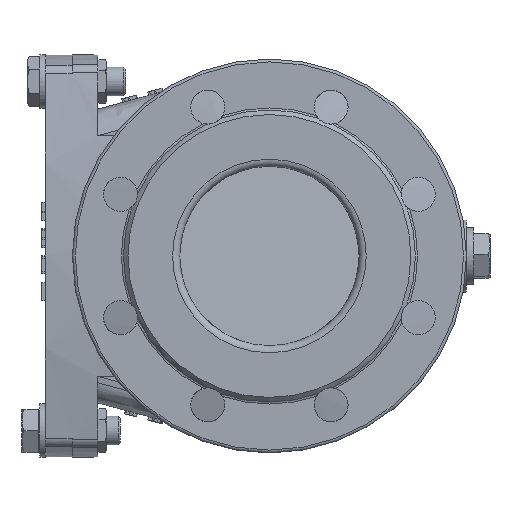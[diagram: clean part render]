
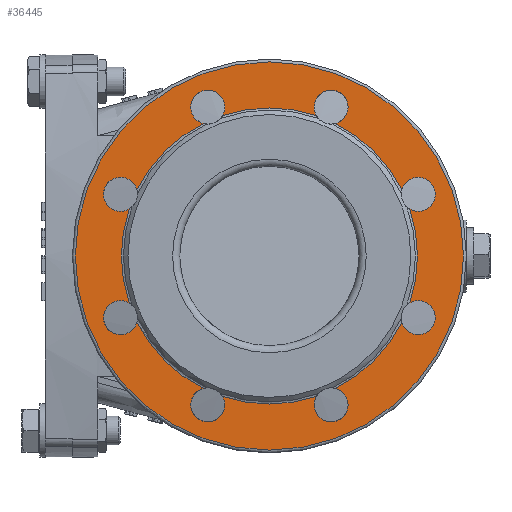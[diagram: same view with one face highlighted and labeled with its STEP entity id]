
A CAD part, left-side view. The second image highlights one B-rep face of the part: STEP entity #36445.
In plain terms, the highlighted planar face has unit normal (-1, 0, 0).
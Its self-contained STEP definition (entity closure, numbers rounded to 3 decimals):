
#6469=CIRCLE('',#38217,108.4);
#6475=CIRCLE('',#38234,82.663);
#6477=CIRCLE('',#38237,82.663);
#6479=CIRCLE('',#38240,82.663);
#6481=CIRCLE('',#38243,82.663);
#6483=CIRCLE('',#38246,82.663);
#6485=CIRCLE('',#38249,82.663);
#6486=CIRCLE('',#38251,82.663);
#6488=CIRCLE('',#38254,9.5);
#6489=CIRCLE('',#38255,82.663);
#6490=CIRCLE('',#38256,9.5);
#6491=CIRCLE('',#38257,9.5);
#6492=CIRCLE('',#38258,9.5);
#6493=CIRCLE('',#38259,9.5);
#6494=CIRCLE('',#38260,9.5);
#6495=CIRCLE('',#38261,9.5);
#6496=CIRCLE('',#38262,9.5);
#8311=ORIENTED_EDGE('',*,*,#15314,.F.);
#8312=ORIENTED_EDGE('',*,*,#15315,.F.);
#8313=ORIENTED_EDGE('',*,*,#15316,.F.);
#8314=ORIENTED_EDGE('',*,*,#15309,.F.);
#8315=ORIENTED_EDGE('',*,*,#15317,.F.);
#8316=ORIENTED_EDGE('',*,*,#15305,.F.);
#8317=ORIENTED_EDGE('',*,*,#15318,.F.);
#8318=ORIENTED_EDGE('',*,*,#15301,.F.);
#8319=ORIENTED_EDGE('',*,*,#15319,.F.);
#8320=ORIENTED_EDGE('',*,*,#15297,.F.);
#8321=ORIENTED_EDGE('',*,*,#15320,.F.);
#8322=ORIENTED_EDGE('',*,*,#15293,.F.);
#8323=ORIENTED_EDGE('',*,*,#15321,.F.);
#8324=ORIENTED_EDGE('',*,*,#15289,.F.);
#8325=ORIENTED_EDGE('',*,*,#15322,.F.);
#8326=ORIENTED_EDGE('',*,*,#15311,.F.);
#8327=ORIENTED_EDGE('',*,*,#15269,.T.);
#15269=EDGE_CURVE('',#18855,#18855,#6469,.T.);
#15289=EDGE_CURVE('',#18869,#18867,#6475,.T.);
#15293=EDGE_CURVE('',#18873,#18871,#6477,.T.);
#15297=EDGE_CURVE('',#18877,#18875,#6479,.T.);
#15301=EDGE_CURVE('',#18881,#18879,#6481,.T.);
#15305=EDGE_CURVE('',#18885,#18883,#6483,.T.);
#15309=EDGE_CURVE('',#18889,#18887,#6485,.T.);
#15311=EDGE_CURVE('',#18890,#18892,#6486,.T.);
#15314=EDGE_CURVE('',#18894,#18890,#6488,.T.);
#15315=EDGE_CURVE('',#18895,#18894,#6489,.T.);
#15316=EDGE_CURVE('',#18887,#18895,#6490,.T.);
#15317=EDGE_CURVE('',#18883,#18889,#6491,.T.);
#15318=EDGE_CURVE('',#18879,#18885,#6492,.T.);
#15319=EDGE_CURVE('',#18875,#18881,#6493,.T.);
#15320=EDGE_CURVE('',#18871,#18877,#6494,.T.);
#15321=EDGE_CURVE('',#18867,#18873,#6495,.T.);
#15322=EDGE_CURVE('',#18892,#18869,#6496,.T.);
#18855=VERTEX_POINT('',#69868);
#18867=VERTEX_POINT('',#69947);
#18869=VERTEX_POINT('',#69954);
#18871=VERTEX_POINT('',#69962);
#18873=VERTEX_POINT('',#69969);
#18875=VERTEX_POINT('',#69977);
#18877=VERTEX_POINT('',#69984);
#18879=VERTEX_POINT('',#69992);
#18881=VERTEX_POINT('',#69999);
#18883=VERTEX_POINT('',#70007);
#18885=VERTEX_POINT('',#70014);
#18887=VERTEX_POINT('',#70022);
#18889=VERTEX_POINT('',#70029);
#18890=VERTEX_POINT('',#70036);
#18892=VERTEX_POINT('',#70039);
#18894=VERTEX_POINT('',#70048);
#18895=VERTEX_POINT('',#70050);
#21387=EDGE_LOOP('',(#8311,#8312,#8313,#8314,#8315,#8316,#8317,#8318,#8319,
#8320,#8321,#8322,#8323,#8324,#8325,#8326));
#21388=EDGE_LOOP('',(#8327));
#23180=FACE_BOUND('',#21387,.T.);
#23181=FACE_BOUND('',#21388,.T.);
#24661=PLANE('',#38253);
#36445=ADVANCED_FACE('',(#23180,#23181),#24661,.T.);
#38217=AXIS2_PLACEMENT_3D('',#69867,#40697,#40698);
#38234=AXIS2_PLACEMENT_3D('',#69955,#40731,#40732);
#38237=AXIS2_PLACEMENT_3D('',#69970,#40737,#40738);
#38240=AXIS2_PLACEMENT_3D('',#69985,#40743,#40744);
#38243=AXIS2_PLACEMENT_3D('',#70000,#40749,#40750);
#38246=AXIS2_PLACEMENT_3D('',#70015,#40755,#40756);
#38249=AXIS2_PLACEMENT_3D('',#70030,#40761,#40762);
#38251=AXIS2_PLACEMENT_3D('',#70038,#40765,#40766);
#38253=AXIS2_PLACEMENT_3D('',#70046,#40769,#40770);
#38254=AXIS2_PLACEMENT_3D('',#70047,#40771,#40772);
#38255=AXIS2_PLACEMENT_3D('',#70049,#40773,#40774);
#38256=AXIS2_PLACEMENT_3D('',#70051,#40775,#40776);
#38257=AXIS2_PLACEMENT_3D('',#70052,#40777,#40778);
#38258=AXIS2_PLACEMENT_3D('',#70053,#40779,#40780);
#38259=AXIS2_PLACEMENT_3D('',#70054,#40781,#40782);
#38260=AXIS2_PLACEMENT_3D('',#70055,#40783,#40784);
#38261=AXIS2_PLACEMENT_3D('',#70056,#40785,#40786);
#38262=AXIS2_PLACEMENT_3D('',#70057,#40787,#40788);
#40697=DIRECTION('',(-1.,0.,0.));
#40698=DIRECTION('',(0.,0.,1.));
#40731=DIRECTION('',(-1.,0.,0.));
#40732=DIRECTION('',(0.,0.,1.));
#40737=DIRECTION('',(-1.,0.,0.));
#40738=DIRECTION('',(0.,0.,1.));
#40743=DIRECTION('',(-1.,0.,0.));
#40744=DIRECTION('',(0.,0.,1.));
#40749=DIRECTION('',(-1.,0.,0.));
#40750=DIRECTION('',(0.,0.,1.));
#40755=DIRECTION('',(-1.,0.,0.));
#40756=DIRECTION('',(0.,0.,1.));
#40761=DIRECTION('',(-1.,0.,0.));
#40762=DIRECTION('',(0.,0.,1.));
#40765=DIRECTION('',(-1.,0.,0.));
#40766=DIRECTION('',(0.,0.,1.));
#40769=DIRECTION('',(-1.,0.,0.));
#40770=DIRECTION('',(0.,0.,1.));
#40771=DIRECTION('',(-1.,0.,0.));
#40772=DIRECTION('',(0.,0.,1.));
#40773=DIRECTION('',(-1.,0.,0.));
#40774=DIRECTION('',(0.,0.,1.));
#40775=DIRECTION('',(-1.,0.,0.));
#40776=DIRECTION('',(0.,0.,1.));
#40777=DIRECTION('',(-1.,0.,0.));
#40778=DIRECTION('',(0.,0.,1.));
#40779=DIRECTION('',(-1.,0.,0.));
#40780=DIRECTION('',(0.,0.,1.));
#40781=DIRECTION('',(-1.,0.,0.));
#40782=DIRECTION('',(0.,0.,1.));
#40783=DIRECTION('',(-1.,0.,0.));
#40784=DIRECTION('',(0.,0.,1.));
#40785=DIRECTION('',(-1.,0.,0.));
#40786=DIRECTION('',(0.,0.,1.));
#40787=DIRECTION('',(-1.,0.,0.));
#40788=DIRECTION('',(0.,0.,1.));
#69867=CARTESIAN_POINT('',(-117.,0.,0.));
#69868=CARTESIAN_POINT('',(-117.,0.,108.4));
#69947=CARTESIAN_POINT('',(-117.,36.896,-73.972));
#69954=CARTESIAN_POINT('',(-117.,73.972,-36.896));
#69955=CARTESIAN_POINT('',(-117.,0.,0.));
#69962=CARTESIAN_POINT('',(-117.,-26.216,-78.395));
#69969=CARTESIAN_POINT('',(-117.,26.216,-78.395));
#69970=CARTESIAN_POINT('',(-117.,0.,0.));
#69977=CARTESIAN_POINT('',(-117.,-73.972,-36.896));
#69984=CARTESIAN_POINT('',(-117.,-36.896,-73.972));
#69985=CARTESIAN_POINT('',(-117.,0.,0.));
#69992=CARTESIAN_POINT('',(-117.,-78.395,26.216));
#69999=CARTESIAN_POINT('',(-117.,-78.395,-26.216));
#70000=CARTESIAN_POINT('',(-117.,0.,0.));
#70007=CARTESIAN_POINT('',(-117.,-36.896,73.972));
#70014=CARTESIAN_POINT('',(-117.,-73.972,36.896));
#70015=CARTESIAN_POINT('',(-117.,0.,0.));
#70022=CARTESIAN_POINT('',(-117.,26.216,78.395));
#70029=CARTESIAN_POINT('',(-117.,-26.216,78.395));
#70030=CARTESIAN_POINT('',(-117.,0.,0.));
#70036=CARTESIAN_POINT('',(-117.,78.395,26.216));
#70038=CARTESIAN_POINT('',(-117.,0.,0.));
#70039=CARTESIAN_POINT('',(-117.,78.395,-26.216));
#70046=CARTESIAN_POINT('',(-117.,-108.4,0.));
#70047=CARTESIAN_POINT('',(-117.,83.149,34.442));
#70048=CARTESIAN_POINT('',(-117.,73.972,36.896));
#70049=CARTESIAN_POINT('',(-117.,0.,0.));
#70050=CARTESIAN_POINT('',(-117.,36.896,73.972));
#70051=CARTESIAN_POINT('',(-117.,34.442,83.149));
#70052=CARTESIAN_POINT('',(-117.,-34.442,83.149));
#70053=CARTESIAN_POINT('',(-117.,-83.149,34.442));
#70054=CARTESIAN_POINT('',(-117.,-83.149,-34.442));
#70055=CARTESIAN_POINT('',(-117.,-34.442,-83.149));
#70056=CARTESIAN_POINT('',(-117.,34.442,-83.149));
#70057=CARTESIAN_POINT('',(-117.,83.149,-34.442));
